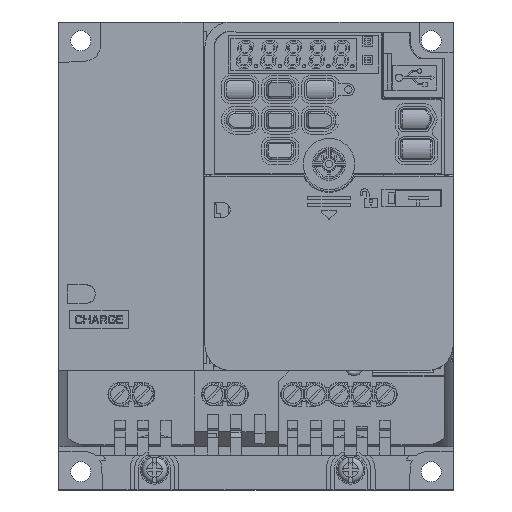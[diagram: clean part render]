
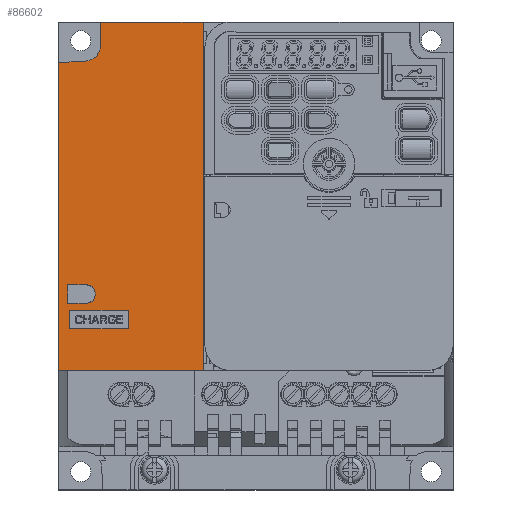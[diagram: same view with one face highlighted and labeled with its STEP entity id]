
A CAD part, top view. The second image highlights one B-rep face of the part: STEP entity #86602.
In plain terms, the highlighted planar face has unit normal (0, 0, 1).
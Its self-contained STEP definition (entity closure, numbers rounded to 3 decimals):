
#17566=DIRECTION('',(0.999,0.052,0.));
#17567=VECTOR('',#17566,7.245);
#17568=CARTESIAN_POINT('',(-54.,116.897,149.));
#17569=LINE('',#17568,#17567);
#17570=CARTESIAN_POINT('',(-47.,121.77,149.));
#17571=DIRECTION('',(0.,0.,1.));
#17572=DIRECTION('',(0.052,-0.999,0.));
#17573=AXIS2_PLACEMENT_3D('',#17570,#17571,#17572);
#17575=DIRECTION('',(0.,1.,0.));
#17576=VECTOR('',#17575,6.23);
#17577=CARTESIAN_POINT('',(-42.5,121.77,149.));
#17578=LINE('',#17577,#17576);
#17579=DIRECTION('',(1.,0.,0.));
#17580=VECTOR('',#17579,28.);
#17581=CARTESIAN_POINT('',(-42.5,128.,149.));
#17582=LINE('',#17581,#17580);
#17583=DIRECTION('',(0.,-1.,0.));
#17584=VECTOR('',#17583,95.4);
#17585=CARTESIAN_POINT('',(-14.5,128.,149.));
#17586=LINE('',#17585,#17584);
#17587=DIRECTION('',(-1.,0.,0.));
#17588=VECTOR('',#17587,39.5);
#17589=CARTESIAN_POINT('',(-14.5,32.6,149.));
#17590=LINE('',#17589,#17588);
#17591=DIRECTION('',(0.,1.,0.));
#17592=VECTOR('',#17591,84.297);
#17593=CARTESIAN_POINT('',(-54.,32.6,149.));
#17594=LINE('',#17593,#17592);
#17595=DIRECTION('',(1.,0.,0.));
#17596=VECTOR('',#17595,5.052);
#17597=CARTESIAN_POINT('',(-51.552,50.948,149.));
#17598=LINE('',#17597,#17596);
#17599=CARTESIAN_POINT('',(-46.5,53.5,149.));
#17600=DIRECTION('',(0.,0.,1.));
#17601=DIRECTION('',(0.,-1.,0.));
#17602=AXIS2_PLACEMENT_3D('',#17599,#17600,#17601);
#17604=DIRECTION('',(-1.,0.,0.));
#17605=VECTOR('',#17604,5.052);
#17606=CARTESIAN_POINT('',(-46.5,56.052,149.));
#17607=LINE('',#17606,#17605);
#17608=DIRECTION('',(0.,-1.,0.));
#17609=VECTOR('',#17608,5.105);
#17610=CARTESIAN_POINT('',(-51.552,56.052,149.));
#17611=LINE('',#17610,#17609);
#17682=DIRECTION('',(0.,1.,0.));
#17683=VECTOR('',#17682,5.);
#17684=CARTESIAN_POINT('',(-51.,44.,149.));
#17685=LINE('',#17684,#17683);
#17690=DIRECTION('',(1.,0.,0.));
#17691=VECTOR('',#17690,16.);
#17692=CARTESIAN_POINT('',(-51.,49.,149.));
#17693=LINE('',#17692,#17691);
#17698=DIRECTION('',(0.,-1.,0.));
#17699=VECTOR('',#17698,5.);
#17700=CARTESIAN_POINT('',(-35.,49.,149.));
#17701=LINE('',#17700,#17699);
#17706=DIRECTION('',(-1.,0.,0.));
#17707=VECTOR('',#17706,16.);
#17708=CARTESIAN_POINT('',(-35.,44.,149.));
#17709=LINE('',#17708,#17707);
#49683=CARTESIAN_POINT('',(-54.,116.897,149.));
#49684=VERTEX_POINT('',#49683);
#49685=CARTESIAN_POINT('',(-54.,32.6,149.));
#49686=VERTEX_POINT('',#49685);
#53154=CARTESIAN_POINT('',(-14.5,128.,149.));
#53155=VERTEX_POINT('',#53154);
#53156=CARTESIAN_POINT('',(-42.5,128.,149.));
#53157=VERTEX_POINT('',#53156);
#53392=CARTESIAN_POINT('',(-14.5,32.6,149.));
#53393=VERTEX_POINT('',#53392);
#55526=CARTESIAN_POINT('',(-46.764,117.277,149.));
#55527=VERTEX_POINT('',#55526);
#55528=CARTESIAN_POINT('',(-42.5,121.77,149.));
#55529=VERTEX_POINT('',#55528);
#55530=CARTESIAN_POINT('',(-51.552,50.948,149.));
#55531=CARTESIAN_POINT('',(-46.5,50.948,149.));
#55532=VERTEX_POINT('',#55530);
#55533=VERTEX_POINT('',#55531);
#55534=CARTESIAN_POINT('',(-46.5,56.052,149.));
#55535=VERTEX_POINT('',#55534);
#55536=CARTESIAN_POINT('',(-51.552,56.052,149.));
#55537=VERTEX_POINT('',#55536);
#55538=CARTESIAN_POINT('',(-51.,44.,149.));
#55539=CARTESIAN_POINT('',(-51.,49.,149.));
#55540=VERTEX_POINT('',#55538);
#55541=VERTEX_POINT('',#55539);
#55542=CARTESIAN_POINT('',(-35.,44.,149.));
#55543=VERTEX_POINT('',#55542);
#55544=CARTESIAN_POINT('',(-35.,49.,149.));
#55545=VERTEX_POINT('',#55544);
#86565=CARTESIAN_POINT('',(0.,0.,149.));
#86566=DIRECTION('',(0.,0.,1.));
#86567=DIRECTION('',(1.,0.,0.));
#86568=AXIS2_PLACEMENT_3D('',#86565,#86566,#86567);
#86569=PLANE('',#86568);
#86571=ORIENTED_EDGE('',*,*,#86570,.T.);
#86573=ORIENTED_EDGE('',*,*,#86572,.T.);
#86575=ORIENTED_EDGE('',*,*,#86574,.T.);
#86576=ORIENTED_EDGE('',*,*,#62543,.T.);
#86577=ORIENTED_EDGE('',*,*,#78458,.T.);
#86578=ORIENTED_EDGE('',*,*,#76801,.T.);
#86579=ORIENTED_EDGE('',*,*,#58416,.T.);
#86580=EDGE_LOOP('',(#86571,#86573,#86575,#86576,#86577,#86578,#86579));
#86581=FACE_OUTER_BOUND('',#86580,.F.);
#86583=ORIENTED_EDGE('',*,*,#86582,.T.);
#86585=ORIENTED_EDGE('',*,*,#86584,.T.);
#86587=ORIENTED_EDGE('',*,*,#86586,.T.);
#86589=ORIENTED_EDGE('',*,*,#86588,.T.);
#86590=EDGE_LOOP('',(#86583,#86585,#86587,#86589));
#86591=FACE_BOUND('',#86590,.F.);
#86593=ORIENTED_EDGE('',*,*,#86592,.F.);
#86595=ORIENTED_EDGE('',*,*,#86594,.F.);
#86597=ORIENTED_EDGE('',*,*,#86596,.F.);
#86599=ORIENTED_EDGE('',*,*,#86598,.F.);
#86600=EDGE_LOOP('',(#86593,#86595,#86597,#86599));
#86601=FACE_BOUND('',#86600,.F.);
#17574=CIRCLE('',#17573,4.5);
#17603=CIRCLE('',#17602,2.552);
#58416=EDGE_CURVE('',#49686,#49684,#17594,.T.);
#62543=EDGE_CURVE('',#53157,#53155,#17582,.T.);
#76801=EDGE_CURVE('',#53393,#49686,#17590,.T.);
#78458=EDGE_CURVE('',#53155,#53393,#17586,.T.);
#86570=EDGE_CURVE('',#49684,#55527,#17569,.T.);
#86572=EDGE_CURVE('',#55527,#55529,#17574,.T.);
#86574=EDGE_CURVE('',#55529,#53157,#17578,.T.);
#86582=EDGE_CURVE('',#55532,#55533,#17598,.T.);
#86584=EDGE_CURVE('',#55533,#55535,#17603,.T.);
#86586=EDGE_CURVE('',#55535,#55537,#17607,.T.);
#86588=EDGE_CURVE('',#55537,#55532,#17611,.T.);
#86592=EDGE_CURVE('',#55540,#55541,#17685,.T.);
#86594=EDGE_CURVE('',#55543,#55540,#17709,.T.);
#86596=EDGE_CURVE('',#55545,#55543,#17701,.T.);
#86598=EDGE_CURVE('',#55541,#55545,#17693,.T.);
#86602=ADVANCED_FACE('',(#86581,#86591,#86601),#86569,.T.);
